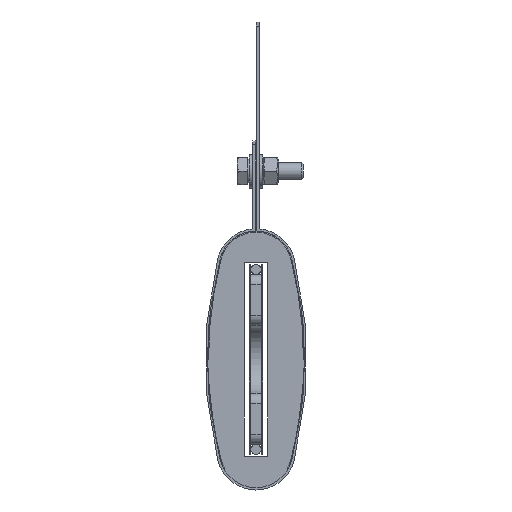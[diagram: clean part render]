
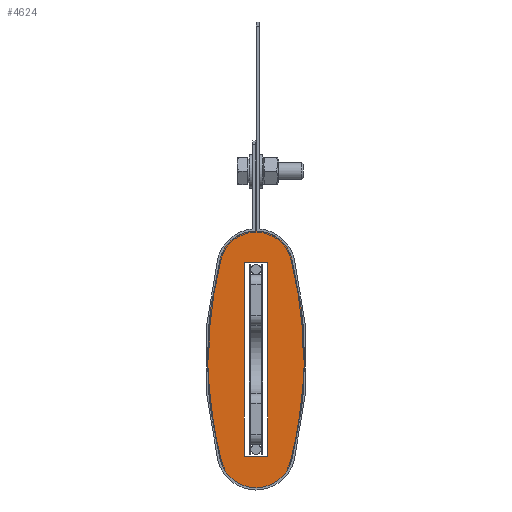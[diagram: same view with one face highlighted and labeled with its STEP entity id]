
A CAD part, front view. The second image highlights one B-rep face of the part: STEP entity #4624.
In plain terms, the highlighted planar face has unit normal (0, -1, 0).
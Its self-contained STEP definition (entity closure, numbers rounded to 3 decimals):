
#428=PLANE($,#5096);
#500=CIRCLE($,#4814,119.768);
#502=CIRCLE($,#4817,119.768);
#507=CIRCLE($,#4823,10.644);
#514=CIRCLE($,#4831,10.644);
#516=CIRCLE($,#4834,10.644);
#521=CIRCLE($,#4842,119.768);
#524=CIRCLE($,#4846,119.768);
#532=CIRCLE($,#4858,120.068);
#538=CIRCLE($,#4867,10.944);
#544=CIRCLE($,#4876,120.068);
#555=CIRCLE($,#4890,10.944);
#573=CIRCLE($,#4916,119.315);
#575=CIRCLE($,#4919,10.625);
#578=CIRCLE($,#4923,119.315);
#579=CIRCLE($,#4925,119.315);
#670=CIRCLE($,#5086,10.625);
#671=CIRCLE($,#5088,10.625);
#672=CIRCLE($,#5090,119.315);
#782=FACE_BOUND($,#1044,.T.);
#783=FACE_BOUND($,#1045,.T.);
#784=FACE_BOUND($,#1046,.T.);
#785=FACE_BOUND($,#1047,.T.);
#786=FACE_BOUND($,#1048,.T.);
#1044=EDGE_LOOP($,(#3765,#3766,#3767,#3768,#3769,#3770));
#1045=EDGE_LOOP($,(#3771,#3772,#3773,#3774));
#1046=EDGE_LOOP($,(#3775,#3776,#3777,#3778));
#1047=EDGE_LOOP($,(#3779,#3780,#3781,#3782));
#1048=EDGE_LOOP($,(#3783,#3784,#3785,#3786));
#1407=LINE($,#7529,#1725);
#1411=LINE($,#7537,#1729);
#1414=LINE($,#7543,#1732);
#1417=LINE($,#7548,#1735);
#1725=VECTOR($,#6255,57.);
#1729=VECTOR($,#6261,7.);
#1732=VECTOR($,#6266,57.);
#1735=VECTOR($,#6271,7.);
#1915=VERTEX_POINT($,#6975);
#1916=VERTEX_POINT($,#6977);
#1918=VERTEX_POINT($,#6982);
#1920=VERTEX_POINT($,#6986);
#1925=VERTEX_POINT($,#7000);
#1936=VERTEX_POINT($,#7023);
#1938=VERTEX_POINT($,#7027);
#1940=VERTEX_POINT($,#7033);
#1947=VERTEX_POINT($,#7052);
#1950=VERTEX_POINT($,#7060);
#1959=VERTEX_POINT($,#7085);
#1960=VERTEX_POINT($,#7087);
#1970=VERTEX_POINT($,#7111);
#1976=VERTEX_POINT($,#7129);
#2001=VERTEX_POINT($,#7207);
#2003=VERTEX_POINT($,#7213);
#2005=VERTEX_POINT($,#7222);
#2096=VERTEX_POINT($,#7519);
#2097=VERTEX_POINT($,#7527);
#2098=VERTEX_POINT($,#7528);
#2101=VERTEX_POINT($,#7536);
#2103=VERTEX_POINT($,#7542);
#2401=EDGE_CURVE($,#1916,#1915,#500,.T.);
#2406=EDGE_CURVE($,#1918,#1920,#502,.T.);
#2413=EDGE_CURVE($,#1925,#1916,#507,.T.);
#2427=EDGE_CURVE($,#1936,#1938,#514,.T.);
#2430=EDGE_CURVE($,#1920,#1940,#516,.T.);
#2439=EDGE_CURVE($,#1938,#1947,#521,.T.);
#2442=EDGE_CURVE($,#1950,#1925,#524,.T.);
#2455=EDGE_CURVE($,#1960,#1959,#532,.T.);
#2466=EDGE_CURVE($,#1970,#1960,#538,.T.);
#2475=EDGE_CURVE($,#1976,#1970,#544,.T.);
#2491=EDGE_CURVE($,#1959,#1976,#555,.T.);
#2517=EDGE_CURVE($,#1918,#2001,#573,.T.);
#2520=EDGE_CURVE($,#1936,#2003,#575,.T.);
#2524=EDGE_CURVE($,#2003,#1947,#578,.T.);
#2525=EDGE_CURVE($,#1950,#2005,#579,.T.);
#2661=EDGE_CURVE($,#2005,#2096,#670,.T.);
#2663=EDGE_CURVE($,#2001,#1940,#671,.T.);
#2664=EDGE_CURVE($,#2096,#1915,#672,.T.);
#2665=EDGE_CURVE($,#2097,#2098,#1407,.T.);
#2669=EDGE_CURVE($,#2098,#2101,#1411,.T.);
#2672=EDGE_CURVE($,#2101,#2103,#1414,.T.);
#2675=EDGE_CURVE($,#2103,#2097,#1417,.T.);
#3765=ORIENTED_EDGE($,*,*,#2664,.F.);
#3766=ORIENTED_EDGE($,*,*,#2661,.F.);
#3767=ORIENTED_EDGE($,*,*,#2525,.F.);
#3768=ORIENTED_EDGE($,*,*,#2442,.T.);
#3769=ORIENTED_EDGE($,*,*,#2413,.T.);
#3770=ORIENTED_EDGE($,*,*,#2401,.T.);
#3771=ORIENTED_EDGE($,*,*,#2406,.T.);
#3772=ORIENTED_EDGE($,*,*,#2430,.T.);
#3773=ORIENTED_EDGE($,*,*,#2663,.F.);
#3774=ORIENTED_EDGE($,*,*,#2517,.F.);
#3775=ORIENTED_EDGE($,*,*,#2466,.T.);
#3776=ORIENTED_EDGE($,*,*,#2455,.T.);
#3777=ORIENTED_EDGE($,*,*,#2491,.T.);
#3778=ORIENTED_EDGE($,*,*,#2475,.T.);
#3779=ORIENTED_EDGE($,*,*,#2427,.T.);
#3780=ORIENTED_EDGE($,*,*,#2439,.T.);
#3781=ORIENTED_EDGE($,*,*,#2524,.F.);
#3782=ORIENTED_EDGE($,*,*,#2520,.F.);
#3783=ORIENTED_EDGE($,*,*,#2665,.T.);
#3784=ORIENTED_EDGE($,*,*,#2669,.T.);
#3785=ORIENTED_EDGE($,*,*,#2672,.T.);
#3786=ORIENTED_EDGE($,*,*,#2675,.T.);
#4624=ADVANCED_FACE($,(#782,#783,#784,#785,#786),#428,.F.);
#4814=AXIS2_PLACEMENT_3D($,#6978,#5608,#5609);
#4817=AXIS2_PLACEMENT_3D($,#6988,#5617,#5618);
#4823=AXIS2_PLACEMENT_3D($,#7001,#5631,#5632);
#4831=AXIS2_PLACEMENT_3D($,#7029,#5654,#5655);
#4834=AXIS2_PLACEMENT_3D($,#7035,#5661,#5662);
#4842=AXIS2_PLACEMENT_3D($,#7055,#5681,#5682);
#4846=AXIS2_PLACEMENT_3D($,#7061,#5689,#5690);
#4858=AXIS2_PLACEMENT_3D($,#7088,#5718,#5719);
#4867=AXIS2_PLACEMENT_3D($,#7112,#5741,#5742);
#4876=AXIS2_PLACEMENT_3D($,#7130,#5762,#5763);
#4890=AXIS2_PLACEMENT_3D($,#7158,#5795,#5796);
#4916=AXIS2_PLACEMENT_3D($,#7208,#5855,#5856);
#4919=AXIS2_PLACEMENT_3D($,#7214,#5862,#5863);
#4923=AXIS2_PLACEMENT_3D($,#7220,#5871,#5872);
#4925=AXIS2_PLACEMENT_3D($,#7223,#5875,#5876);
#5086=AXIS2_PLACEMENT_3D($,#7520,#6242,#6243);
#5088=AXIS2_PLACEMENT_3D($,#7523,#6247,#6248);
#5090=AXIS2_PLACEMENT_3D($,#7525,#6251,#6252);
#5096=AXIS2_PLACEMENT_3D($,#7551,#6275,#6276);
#5608=DIRECTION('center_axis',(0.,1.,0.));
#5609=DIRECTION('ref_axis',(0.969,0.,0.246));
#5617=DIRECTION('center_axis',(0.,1.,0.));
#5618=DIRECTION('ref_axis',(0.969,0.,0.246));
#5631=DIRECTION('center_axis',(0.,1.,0.));
#5632=DIRECTION('ref_axis',(-0.969,0.,0.246));
#5654=DIRECTION('center_axis',(0.,1.,0.));
#5655=DIRECTION('ref_axis',(0.969,0.,-0.246));
#5661=DIRECTION('center_axis',(0.,1.,0.));
#5662=DIRECTION('ref_axis',(0.969,0.,-0.246));
#5681=DIRECTION('center_axis',(0.,1.,0.));
#5682=DIRECTION('ref_axis',(-0.969,0.,-0.246));
#5689=DIRECTION('center_axis',(0.,1.,0.));
#5690=DIRECTION('ref_axis',(-0.969,0.,-0.246));
#5718=DIRECTION('center_axis',(0.,-1.,0.));
#5719=DIRECTION('ref_axis',(0.969,0.,0.246));
#5741=DIRECTION('center_axis',(0.,-1.,0.));
#5742=DIRECTION('ref_axis',(0.969,0.,-0.246));
#5762=DIRECTION('center_axis',(0.,-1.,0.));
#5763=DIRECTION('ref_axis',(-0.969,0.,-0.246));
#5795=DIRECTION('center_axis',(0.,-1.,0.));
#5796=DIRECTION('ref_axis',(-0.969,0.,0.246));
#5855=DIRECTION('center_axis',(0.,1.,0.));
#5856=DIRECTION('ref_axis',(0.969,0.,-0.247));
#5862=DIRECTION('center_axis',(0.,1.,0.));
#5863=DIRECTION('ref_axis',(-0.969,0.,-0.247));
#5871=DIRECTION('center_axis',(0.,1.,0.));
#5872=DIRECTION('ref_axis',(-0.969,0.,0.247));
#5875=DIRECTION('center_axis',(0.,1.,0.));
#5876=DIRECTION('ref_axis',(-0.969,0.,0.247));
#6242=DIRECTION('center_axis',(0.,1.,0.));
#6243=DIRECTION('ref_axis',(0.969,0.,0.247));
#6247=DIRECTION('center_axis',(0.,1.,0.));
#6248=DIRECTION('ref_axis',(-0.969,0.,-0.247));
#6251=DIRECTION('center_axis',(0.,1.,0.));
#6252=DIRECTION('ref_axis',(0.969,0.,-0.247));
#6255=DIRECTION($,(0.,0.,1.));
#6261=DIRECTION($,(1.,0.,0.));
#6266=DIRECTION($,(0.,0.,-1.));
#6271=DIRECTION($,(-1.,0.,0.));
#6275=DIRECTION('center_axis',(0.,1.,0.));
#6276=DIRECTION('ref_axis',(0.,0.,1.));
#6975=CARTESIAN_POINT('',(-40.5,-177.5,-21.491));
#6977=CARTESIAN_POINT('',(-44.184,-177.5,7.994));
#6978=CARTESIAN_POINT('Origin',(-160.268,-177.5,-21.481));
#6982=CARTESIAN_POINT('',(-40.902,-177.5,-31.282));
#6986=CARTESIAN_POINT('',(-44.184,-177.5,-50.957));
#6988=CARTESIAN_POINT('Origin',(-160.268,-177.5,-21.481));
#7000=CARTESIAN_POINT('',(-64.816,-177.5,7.994));
#7001=CARTESIAN_POINT('Origin',(-54.5,-177.5,5.375));
#7023=CARTESIAN_POINT('',(-63.71,-177.5,-53.674));
#7027=CARTESIAN_POINT('',(-64.816,-177.5,-50.957));
#7029=CARTESIAN_POINT('Origin',(-54.5,-177.5,-48.338));
#7033=CARTESIAN_POINT('',(-45.29,-177.5,-53.674));
#7035=CARTESIAN_POINT('Origin',(-54.5,-177.5,-48.338));
#7052=CARTESIAN_POINT('',(-68.098,-177.5,-31.286));
#7055=CARTESIAN_POINT('Origin',(51.268,-177.5,-21.481));
#7060=CARTESIAN_POINT('',(-68.5,-177.5,-21.487));
#7061=CARTESIAN_POINT('Origin',(51.268,-177.5,-21.481));
#7085=CARTESIAN_POINT('',(-43.893,-177.5,8.068));
#7087=CARTESIAN_POINT('',(-43.893,-177.5,-51.031));
#7088=CARTESIAN_POINT('Origin',(-160.268,-177.5,-21.481));
#7111=CARTESIAN_POINT('',(-65.107,-177.5,-51.031));
#7112=CARTESIAN_POINT('Origin',(-54.5,-177.5,-48.338));
#7129=CARTESIAN_POINT('',(-65.107,-177.5,8.068));
#7130=CARTESIAN_POINT('Origin',(51.268,-177.5,-21.481));
#7158=CARTESIAN_POINT('Origin',(-54.5,-177.5,5.375));
#7207=CARTESIAN_POINT('',(-44.205,-177.5,-51.002));
#7208=CARTESIAN_POINT('Origin',(-159.815,-177.5,-21.5));
#7213=CARTESIAN_POINT('',(-64.795,-177.5,-51.002));
#7214=CARTESIAN_POINT('Origin',(-54.5,-177.5,-48.375));
#7220=CARTESIAN_POINT('Origin',(50.815,-177.5,-21.5));
#7222=CARTESIAN_POINT('',(-64.795,-177.5,8.002));
#7223=CARTESIAN_POINT('Origin',(50.815,-177.5,-21.5));
#7519=CARTESIAN_POINT('',(-44.205,-177.5,8.002));
#7520=CARTESIAN_POINT('Origin',(-54.5,-177.5,5.375));
#7523=CARTESIAN_POINT('Origin',(-54.5,-177.5,-48.375));
#7525=CARTESIAN_POINT('Origin',(-159.815,-177.5,-21.5));
#7527=CARTESIAN_POINT('',(-58.,-177.5,-50.));
#7528=CARTESIAN_POINT('',(-58.,-177.5,7.));
#7529=CARTESIAN_POINT($,(-58.,-177.5,-35.75));
#7536=CARTESIAN_POINT('',(-51.,-177.5,7.));
#7537=CARTESIAN_POINT($,(-56.25,-177.5,7.));
#7542=CARTESIAN_POINT('',(-51.,-177.5,-50.));
#7543=CARTESIAN_POINT($,(-51.,-177.5,-7.25));
#7548=CARTESIAN_POINT($,(-52.75,-177.5,-50.));
#7551=CARTESIAN_POINT('Origin',(-54.5,-177.5,-21.5));
